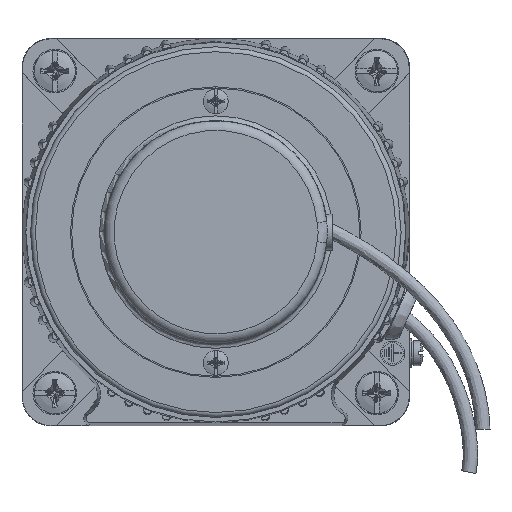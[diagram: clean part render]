
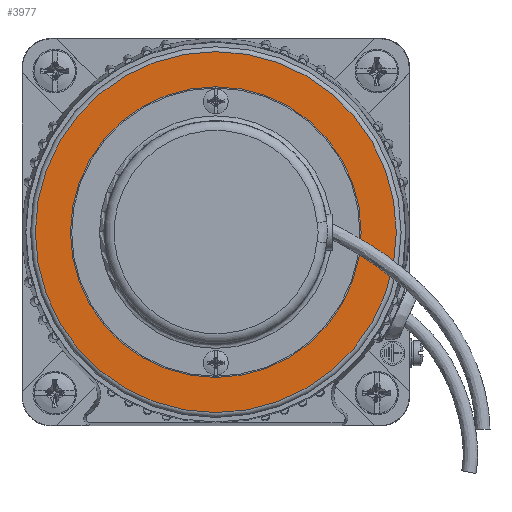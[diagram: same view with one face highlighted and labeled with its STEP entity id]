
A CAD part, left-side view. The second image highlights one B-rep face of the part: STEP entity #3977.
In plain terms, the highlighted planar face has unit normal (-1, 0, 0).
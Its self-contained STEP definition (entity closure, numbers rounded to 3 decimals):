
#2804=PLANE('',#14386);
#3977=ADVANCED_FACE('',(#4663,#4664),#2804,.F.);
#4663=FACE_BOUND('',#5289,.T.);
#4664=FACE_BOUND('',#5290,.T.);
#5289=EDGE_LOOP('',(#7397));
#5290=EDGE_LOOP('',(#7398));
#7397=ORIENTED_EDGE('',*,*,#12106,.F.);
#7398=ORIENTED_EDGE('',*,*,#12088,.T.);
#10474=VERTEX_POINT('',#26291);
#10492=VERTEX_POINT('',#26333);
#12088=EDGE_CURVE('',#10474,#10474,#13684,.T.);
#12106=EDGE_CURVE('',#10492,#10492,#13686,.T.);
#13684=CIRCLE('',#14377,37.25);
#13686=CIRCLE('',#14385,30.);
#14377=AXIS2_PLACEMENT_3D('',#26290,#15899,#15900);
#14385=AXIS2_PLACEMENT_3D('',#26332,#15931,#15932);
#14386=AXIS2_PLACEMENT_3D('',#26334,#15933,#15934);
#15899=DIRECTION('',(-1.,0.,0.));
#15900=DIRECTION('',(0.,0.,-1.));
#15931=DIRECTION('',(-1.,0.,0.));
#15932=DIRECTION('',(0.,0.,1.));
#15933=DIRECTION('',(1.,0.,0.));
#15934=DIRECTION('',(0.,0.,-1.));
#26290=CARTESIAN_POINT('',(-86.,40.,40.));
#26291=CARTESIAN_POINT('',(-86.,40.,2.75));
#26332=CARTESIAN_POINT('',(-86.,40.,40.));
#26333=CARTESIAN_POINT('',(-86.,40.,70.));
#26334=CARTESIAN_POINT('',(-86.,40.,78.25));
